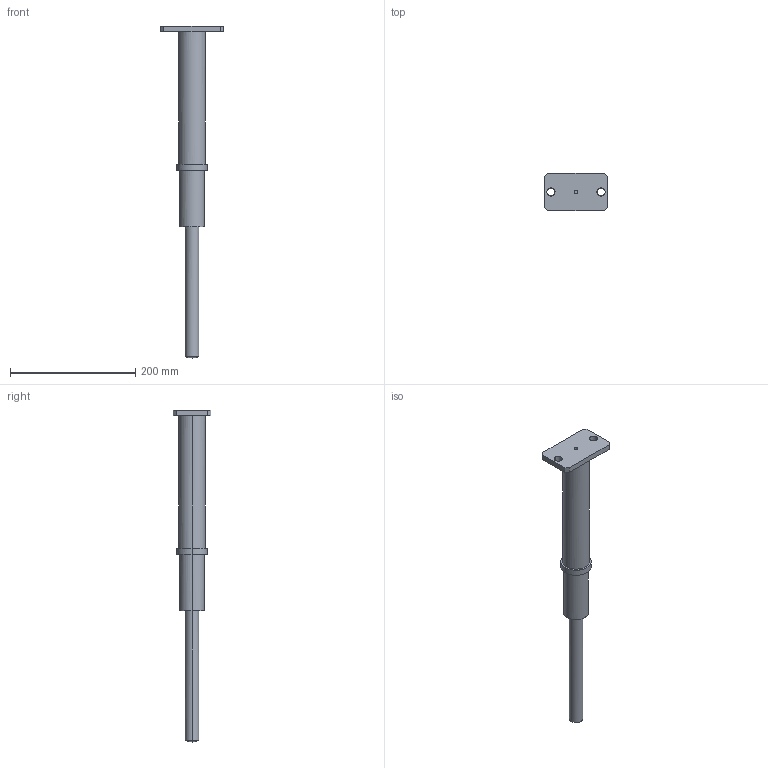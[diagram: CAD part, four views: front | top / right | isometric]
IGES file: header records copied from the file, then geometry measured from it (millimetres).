
Global section: file name: E:\UnigraphicsGraphicData\MISUMI_PRESS-PARTS\IGES\3d_papgs200-90_01661_r00.igs; native system: NX V5.0; preprocessor: UGS NX IGES V5.0; author: MISUMI; date: 20110105.162218; units: millimetre
Bounding box: 100 x 60 x 531 mm (x, y, z)
Surface area: 75195.1 mm2 (no closed solid volume)
Topology: 0 solids, 0 shells, 31 faces, 264 edges, 262 vertices
Faces by surface type: bspline 31
